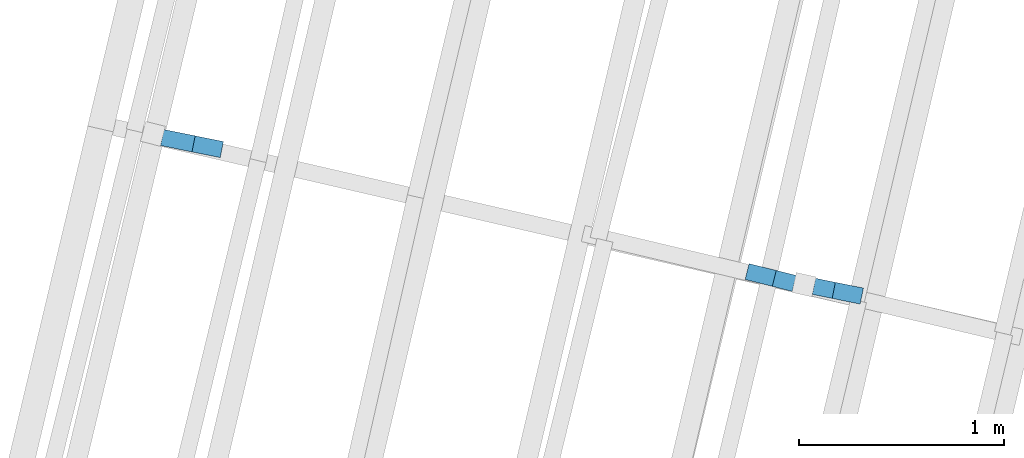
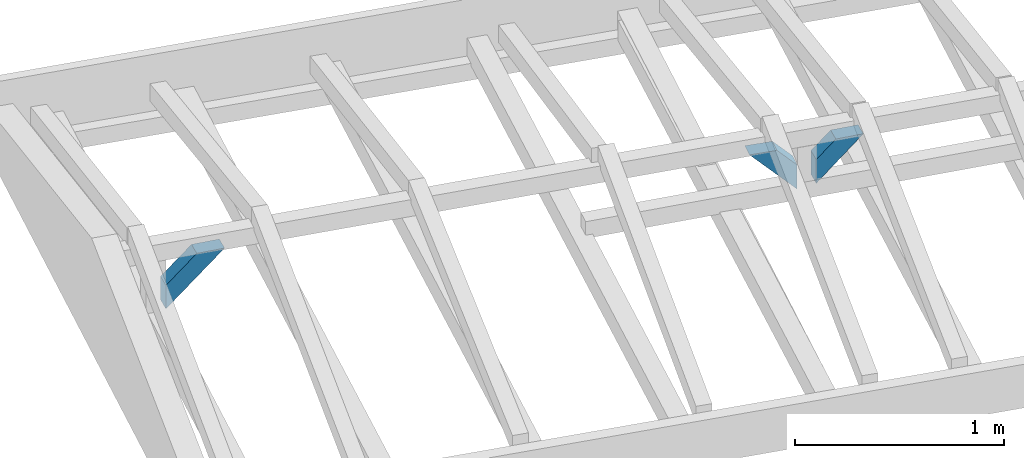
# One storey, part 9 of 158: 3 beams.
"""IFC2X3 building model written with IfcOpenShell, lengths in metres."""

import ifcopenshell
import ifcopenshell.guid

model = None  # the IFC model being written
_history = None  # IfcOwnerHistory: only IFC2X3 demands one
_inside = {}  # id of a spatial element -> (the spatial element, [elements in it])
_under = {}  # id of a project, library or spatial element -> (it, [spatial elements below it])
_declared = {}  # id of a project -> (the project, [libraries it declares])
_typed = {}  # id of a type object -> (the type object, [elements of that type])
_made_of = {}  # id of a material, layer set ... -> (it, [elements and type objects made of it])


def new_model(schema):
    """Start an empty IFC model of exactly this schema.

    Asked for "IFC4X3", IfcOpenShell would pick the latest addendum, in which some entities
    have other attributes; the version numbers below select the first issue.
    IFC2X3 requires an IfcOwnerHistory on every rooted entity: one is made here for all.
    """
    global model, _history
    if schema == "IFC4X3":
        model = ifcopenshell.file(schema_version=(4, 3, 0, 0))
    else:
        model = ifcopenshell.file(schema=schema)
    _inside.clear()
    _under.clear()
    _declared.clear()
    _typed.clear()
    _made_of.clear()
    _history = None
    if model.schema == "IFC2X3":
        org = make("IfcOrganization", Name="unknown")
        user = make(
            "IfcPersonAndOrganization",
            ThePerson=make("IfcPerson", FamilyName="unknown"),
            TheOrganization=org,
        )
        app = make(
            "IfcApplication",
            ApplicationDeveloper=org,
            Version="unknown",
            ApplicationFullName="unknown",
            ApplicationIdentifier="unknown",
        )
        _history = make(
            "IfcOwnerHistory",
            OwningUser=user,
            OwningApplication=app,
            ChangeAction="ADDED",
            CreationDate=0,
        )
    return model


def make(cls, **values):
    """One entity of the class cls with the attributes given. An attribute that is None is left unset."""
    return model.create_entity(
        cls, **{name: value for name, value in values.items() if value is not None}
    )


def entity(cls, *values):
    """Any entity or typed value of the class cls, its attributes in the order of the schema. None: left unset."""
    e = model.create_entity(cls)
    for i, value in enumerate(values):
        if value is not None:
            e[i] = value
    return e


def rooted(cls, **values):
    """An entity with a GlobalId (a new one), such as an element, a storey or a relation."""
    return make(cls, GlobalId=ifcopenshell.guid.new(), OwnerHistory=_history, **values)


def si_unit(unit_type, name, prefix=None):
    """IfcSIUnit, for example si_unit("LENGTHUNIT", "METRE", prefix="MILLI")."""
    return make("IfcSIUnit", UnitType=unit_type, Prefix=prefix, Name=name)


def converted_unit(unit_type, name, factor, base, dimensions=None, offset=None):
    """IfcConversionBasedUnit, such as the inch: factor (a typed value) times the base unit."""
    return make(
        "IfcConversionBasedUnit"
        if offset is None
        else "IfcConversionBasedUnitWithOffset",
        ConversionOffset=offset,
        Dimensions=None
        if dimensions is None
        else entity("IfcDimensionalExponents", *dimensions),
        UnitType=unit_type,
        Name=name,
        ConversionFactor=make(
            "IfcMeasureWithUnit", ValueComponent=factor, UnitComponent=base
        ),
    )


def derived_unit(unit_type, elements):
    """IfcDerivedUnit: a product of units, each with its exponent."""
    return make(
        "IfcDerivedUnit",
        Elements=[
            make("IfcDerivedUnitElement", Unit=unit, Exponent=power)
            for unit, power in elements
        ],
        UnitType=unit_type,
    )


def money_unit(currency):
    """IfcMonetaryUnit."""
    return make("IfcMonetaryUnit", Currency=currency)


def assignment(units):
    """IfcUnitAssignment: the units of a project."""
    return None if units is None else make("IfcUnitAssignment", Units=units)


def point(xyz):
    """IfcCartesianPoint."""
    return None if xyz is None else make("IfcCartesianPoint", Coordinates=xyz)


def direction(xyz):
    """IfcDirection."""
    return None if xyz is None else make("IfcDirection", DirectionRatios=xyz)


def frame(location, z_axis=None, x_axis=None):
    """IfcAxis2Placement3D, a coordinate frame: its origin and axes. An axis left out is left unset."""
    return make(
        "IfcAxis2Placement3D",
        Location=point(location),
        Axis=direction(z_axis),
        RefDirection=direction(x_axis),
    )


def frame_2d(location, x_axis=None):
    """IfcAxis2Placement2D, a coordinate frame in the plane: its origin and x axis."""
    return make(
        "IfcAxis2Placement2D", Location=point(location), RefDirection=direction(x_axis)
    )


def origin_with_axes():
    """The frame at (0, 0, 0) with the z axis (0, 0, 1) and the x axis (1, 0, 0) written out."""
    return frame((0.0, 0.0, 0.0), z_axis=(0.0, 0.0, 1.0), x_axis=(1.0, 0.0, 0.0))


def place(relative_to, where):
    """IfcLocalPlacement: puts the frame where relative to a parent placement (None: the world)."""
    return make(
        "IfcLocalPlacement", PlacementRelTo=relative_to, RelativePlacement=where
    )


def context(
    kind, dimensions, precision=None, world=None, true_north=None, identifier=None
):
    """IfcGeometricRepresentationContext, for example the 3D "Model" context."""
    return make(
        "IfcGeometricRepresentationContext",
        ContextIdentifier=identifier,
        ContextType=kind,
        CoordinateSpaceDimension=dimensions,
        Precision=precision,
        WorldCoordinateSystem=world,
        TrueNorth=true_north,
    )


def subcontext(parent, identifier, kind, view, scale=None):
    """IfcGeometricRepresentationSubContext, for example "Body" below "Model"."""
    return make(
        "IfcGeometricRepresentationSubContext",
        ContextIdentifier=identifier,
        ContextType=kind,
        ParentContext=parent,
        TargetScale=scale,
        TargetView=view,
    )


def project(units=None, contexts=None):
    """IfcProject with its units and contexts."""
    return rooted(
        "IfcProject",
        Name="project",
        RepresentationContexts=contexts,
        UnitsInContext=assignment(units),
    )


def spatial(cls, under=None, at=None, **own):
    """A site, building, storey or space (cls), placed at a placement, below another one or the project."""
    s = rooted(cls, ObjectPlacement=at, **own)
    if under is not None:
        _under.setdefault(under.id(), (under, []))[1].append(s)
    return s


def profile(cls, at=None, kind="AREA", **sizes):
    """A parametric profile (cls). Its sizes go by their IFC names, for example OverallWidth=200.0."""
    return make(cls, ProfileType=kind, Position=at, **sizes)


def rectangle(**sizes):
    """IfcRectangleProfileDef."""
    return profile("IfcRectangleProfileDef", **sizes)


def extrude(swept, where, along, depth):
    """IfcExtrudedAreaSolid: the profile swept, set in the frame where, extruded along a direction by depth."""
    return make(
        "IfcExtrudedAreaSolid",
        SweptArea=swept,
        Position=where,
        ExtrudedDirection=direction(along),
        Depth=depth,
    )


def clip(a, b, op="DIFFERENCE"):
    """IfcBooleanClippingResult: the solid a cut by the half space b."""
    return make(
        "IfcBooleanClippingResult", Operator=op, FirstOperand=a, SecondOperand=b
    )


def halfspace(plane, agree):
    """IfcHalfSpaceSolid: all space on one side of the plane z = 0 of the frame plane."""
    return make(
        "IfcHalfSpaceSolid",
        BaseSurface=make("IfcPlane", Position=plane),
        AgreementFlag=agree,
    )


def shape(context_of_items, identifier, shape_type, items):
    """IfcShapeRepresentation: the items that make up one representation, for example the "Body"."""
    return make(
        "IfcShapeRepresentation",
        ContextOfItems=context_of_items,
        RepresentationIdentifier=identifier,
        RepresentationType=shape_type,
        Items=items,
    )


def material(Name=None, Category=None):
    """IfcMaterial."""
    return make("IfcMaterial", Name=Name, Category=Category)


def made_of(thing, what):
    """Note that an element or type object is made of a material, layer set ...; save() writes the relation."""
    if what is not None:
        _made_of.setdefault(what.id(), (what, []))[1].append(thing)
    return thing


def type_object(cls, material=None, **own):
    """A type object (cls), such as IfcWallType, which elements share."""
    return made_of(rooted(cls, **own), material)


def element(
    cls,
    number,
    at=None,
    inside=None,
    cuts=None,
    type_object=None,
    material=None,
    context=None,
    identifier="Body",
    shape_type=None,
    held_by="IfcProductDefinitionShape",
    body=None,
    shapes=None,
    **own,
):
    """One element of the class cls, such as IfcWall. Its Tag is "e" and its number.

    at: its placement. inside: the storey or other place that contains it. cuts: it is an
    opening in that element (IfcRelVoidsElement). A single representation is given by context,
    identifier, shape_type and body (its items); several are given by shapes. held_by: the class
    of the entity that holds the representations. save() writes the other relations.
    """
    e = rooted(cls, Tag="e%d" % number, ObjectPlacement=at, **own)
    if body is not None:
        shapes = [shape(context, identifier, shape_type, body)]
    if shapes is not None:
        e.Representation = make(held_by, Representations=shapes)
    if inside is not None:
        _inside.setdefault(inside.id(), (inside, []))[1].append(e)
    if cuts is not None:
        rooted(
            "IfcRelVoidsElement", RelatingBuildingElement=cuts, RelatedOpeningElement=e
        )
    if type_object is not None:
        _typed.setdefault(type_object.id(), (type_object, []))[1].append(e)
    return made_of(e, material)


def aggregate(whole, parts):
    """IfcRelAggregates: a whole, such as a stair, and the parts it consists of."""
    return rooted("IfcRelAggregates", RelatingObject=whole, RelatedObjects=parts)


def save(model, path):
    """Write the relations noted so far, then the file.

    IfcRelAggregates (storeys below a building ...), IfcRelContainedInSpatialStructure (elements
    in a storey), IfcRelDefinesByType, IfcRelAssociatesMaterial and IfcRelDeclares: one each for
    every whole, place, type object, material and project.
    """
    for whole, parts in _under.values():
        aggregate(whole, parts)
    for where, things in _inside.values():
        rooted(
            "IfcRelContainedInSpatialStructure",
            RelatedElements=things,
            RelatingStructure=where,
        )
    for kind, things in _typed.values():
        rooted("IfcRelDefinesByType", RelatedObjects=things, RelatingType=kind)
    for what, things in _made_of.values():
        rooted("IfcRelAssociatesMaterial", RelatedObjects=things, RelatingMaterial=what)
    for by, libraries in _declared.values():
        rooted("IfcRelDeclares", RelatingContext=by, RelatedDefinitions=libraries)
    model.write(path)


model = new_model("IFC2X3")

# Units and contexts
model_context = context("Model", 3, precision=1e-05, world=origin_with_axes(), true_north=direction((0.0, 1.0)))
body_context = subcontext(model_context, "Body", "Model", "MODEL_VIEW")
ifc_project = project(units=[si_unit("LENGTHUNIT", "METRE"), si_unit("AREAUNIT", "SQUARE_METRE"), si_unit("VOLUMEUNIT", "CUBIC_METRE"), converted_unit("PLANEANGLEUNIT", "DEGREE", entity("IfcPlaneAngleMeasure", 0.0174532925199), si_unit("PLANEANGLEUNIT", "RADIAN"), dimensions=[0, 0, 0, 0, 0, 0, 0]), money_unit("EUR"), converted_unit("TIMEUNIT", "Year", entity("IfcTimeMeasure", 31556926.0), si_unit("TIMEUNIT", "SECOND"), dimensions=[0, 0, 1, 0, 0, 0, 0]), si_unit("MASSUNIT", "GRAM", prefix="KILO"), si_unit("THERMODYNAMICTEMPERATUREUNIT", "DEGREE_CELSIUS"), si_unit("LUMINOUSINTENSITYUNIT", "LUMEN"), si_unit("ENERGYUNIT", "JOULE", prefix="MEGA"), derived_unit("THERMALCONDUCTANCEUNIT", [(si_unit("POWERUNIT", "WATT"), 1), (si_unit("LENGTHUNIT", "METRE"), -1), (si_unit("THERMODYNAMICTEMPERATUREUNIT", "KELVIN"), -1)]), derived_unit("SPECIFICHEATCAPACITYUNIT", [(si_unit("ENERGYUNIT", "JOULE"), 1), (si_unit("MASSUNIT", "GRAM", prefix="KILO"), -1), (si_unit("THERMODYNAMICTEMPERATUREUNIT", "KELVIN"), -1)]), derived_unit("MASSDENSITYUNIT", [(si_unit("MASSUNIT", "GRAM", prefix="KILO"), 1), (si_unit("VOLUMEUNIT", "CUBIC_METRE"), -1)])], contexts=[model_context])

# Site, building, storey
site_placement = place(None, origin_with_axes())
site = spatial("IfcSite", under=ifc_project, at=site_placement, Name="Gelände", CompositionType="ELEMENT")
building_placement = place(site_placement, origin_with_axes())
building = spatial("IfcBuilding", under=site, at=building_placement, Name="Gebäude", CompositionType="ELEMENT")
storey_placement = place(building_placement, origin_with_axes())
storey = spatial("IfcBuildingStorey", under=building, at=storey_placement, Name="ERDGESCHOSS", CompositionType="ELEMENT", Elevation=0.0)

# Beams
ifc_material = material(Name="05_ALLGEMEIN - TRAGENDE BAUTEILE")
beam_type = type_object("IfcBeamType", Name="05_ALLGEMEIN - TRAGENDE BAUTEILE 80 x 98", PredefinedType="LINTEL")
beam_1_placement = place(storey_placement, frame((-71.1575542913, 71.6402340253, 0.295068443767), z_axis=(0.0, 0.0, 1.0), x_axis=(-0.198328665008, -0.98013557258, 0.0)))
element("IfcBeam", 1, at=beam_1_placement, inside=storey, type_object=beam_type, material=ifc_material, Name="Unterzug-081", ObjectType="LINTEL", context=body_context, shape_type="Clipping", body=[
    clip(clip(extrude(rectangle(XDim=0.0981735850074, YDim=0.0799267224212, at=frame_2d((0.0490867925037, -0.0399633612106), x_axis=(1.0, 0.0))), frame((0.0, -0.0970050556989, -0.0947360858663), z_axis=(0.0, 0.715424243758, 0.698690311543), x_axis=(0.0, -0.698690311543, 0.715424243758)), (0.0, 0.0, 1.0), 0.692044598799), halfspace(frame((0.0, 0.0, 0.0), z_axis=(0.0, 1.0, 0.0), x_axis=(0.0, 0.0, 1.0)), True)), halfspace(frame((0.0, 0.0, 0.289460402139), z_axis=(0.0, 0.0, -1.0), x_axis=(0.0, 1.0, 0.0)), True)),
])
beam_2_placement = place(storey_placement, frame((-68.3099582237, 70.9874759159, 0.5936745), z_axis=(0.0, 0.0, 1.0), x_axis=(-0.24319825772, -0.969976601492, 0.0)))
element("IfcBeam", 2, at=beam_2_placement, inside=storey, type_object=beam_type, material=ifc_material, Name="Unterzug-081", ObjectType="LINTEL", context=body_context, shape_type="Clipping", body=[
    clip(clip(extrude(rectangle(XDim=0.0981735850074, YDim=0.0799267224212, at=frame_2d((0.0490867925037, -0.0399633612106), x_axis=(1.0, 0.0))), frame((0.0, -0.0929405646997, 0.0963761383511), z_axis=(0.0, 0.694160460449, -0.71982029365), x_axis=(0.0, 0.71982029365, 0.694160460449)), (0.0, 0.0, 1.0), 0.618829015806), halfspace(frame((0.0, 0.0, 0.0), z_axis=(0.0, 0.0, -1.0), x_axis=(0.0, 1.0, 0.0)), True)), halfspace(frame((0.0, 0.236687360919, 0.0), z_axis=(0.0, -1.0, 0.0), x_axis=(0.0, 0.0, -1.0)), True)),
])
beam_3_placement = place(storey_placement, frame((-67.9830062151, 70.9154609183, 0.356720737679), z_axis=(0.0, 0.0, 1.0), x_axis=(-0.199457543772, -0.979906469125, 0.0)))
element("IfcBeam", 3, at=beam_3_placement, inside=storey, type_object=beam_type, material=ifc_material, Name="Unterzug-082", ObjectType="LINTEL", context=body_context, shape_type="Clipping", body=[
    clip(clip(extrude(rectangle(XDim=0.0981735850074, YDim=0.0799267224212, at=frame_2d((0.0490867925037, -0.0399633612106), x_axis=(1.0, 0.0))), frame((0.0, -0.097902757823, -0.0973648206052), z_axis=(0.0, 0.709052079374, 0.70515611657), x_axis=(0.0, -0.70515611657, 0.709052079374)), (0.0, 0.0, 1.0), 0.613386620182), halfspace(frame((0.0, 0.0, 0.0), z_axis=(0.0, 1.0, 0.0), x_axis=(0.0, 0.0, 1.0)), True)), halfspace(frame((0.0, 0.0, 0.236724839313), z_axis=(0.0, 0.0, -1.0), x_axis=(0.0, 1.0, 0.0)), True)),
])

save(model, "model.ifc")
